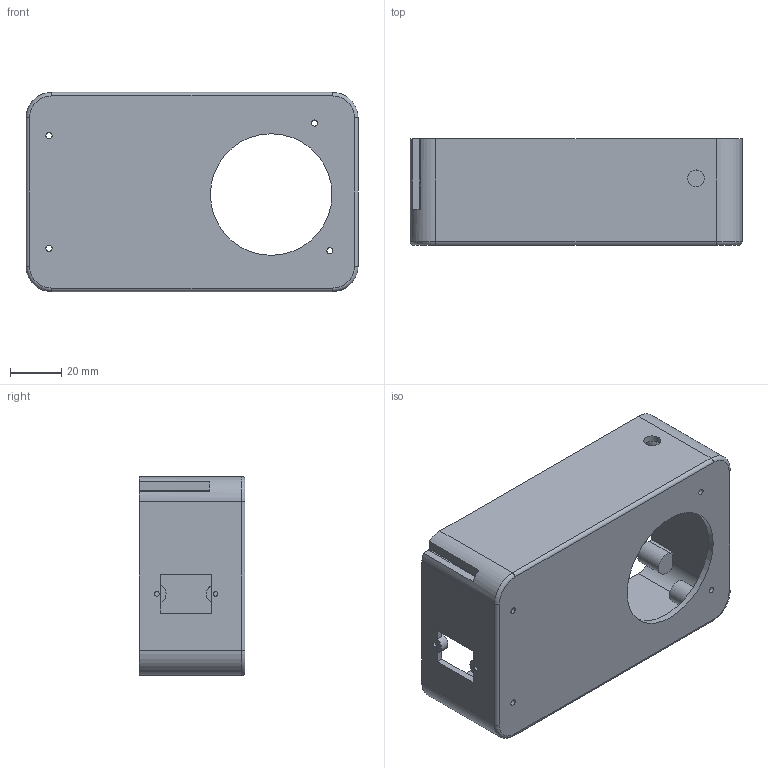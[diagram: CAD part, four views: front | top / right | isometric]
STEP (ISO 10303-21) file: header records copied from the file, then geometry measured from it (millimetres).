
FILE_DESCRIPTION(('Open CASCADE Model'),'2;1');
FILE_NAME('Open CASCADE Shape Model','2026-10-20T16:33:21',('Author'),( 'Open CASCADE'),'Open CASCADE STEP processor 7.8','Open CASCADE 7.8' ,'Unknown');
FILE_SCHEMA(('AUTOMOTIVE_DESIGN { 1 0 10303 214 1 1 1 1 }'));
Length unit declared in the file: millimetre
Products named in the file (1): Open CASCADE STEP translator 7.8 1
Bounding box: 130 x 41.5 x 78 mm (x, y, z)
Volume: 65571.7 mm3; surface area: 50785.3 mm2
Topology: 1 solids, 1 shells, 90 faces, 217 edges, 142 vertices
Faces by surface type: plane 47, cylinder 39, torus 4
Full cylindrical faces by diameter (mm): 1.8 x10, 2.4 x4, 6.6 x1, 7.2 x2, 9 x4, 47.6 x1
Entity records: 5596 total; most frequent: CARTESIAN_POINT 1177, DIRECTION 821, ORIENTED_EDGE 434, PCURVE 434, DEFINITIONAL_REPRESENTATION 434, LINE 376, VECTOR 376, EDGE_CURVE 217
